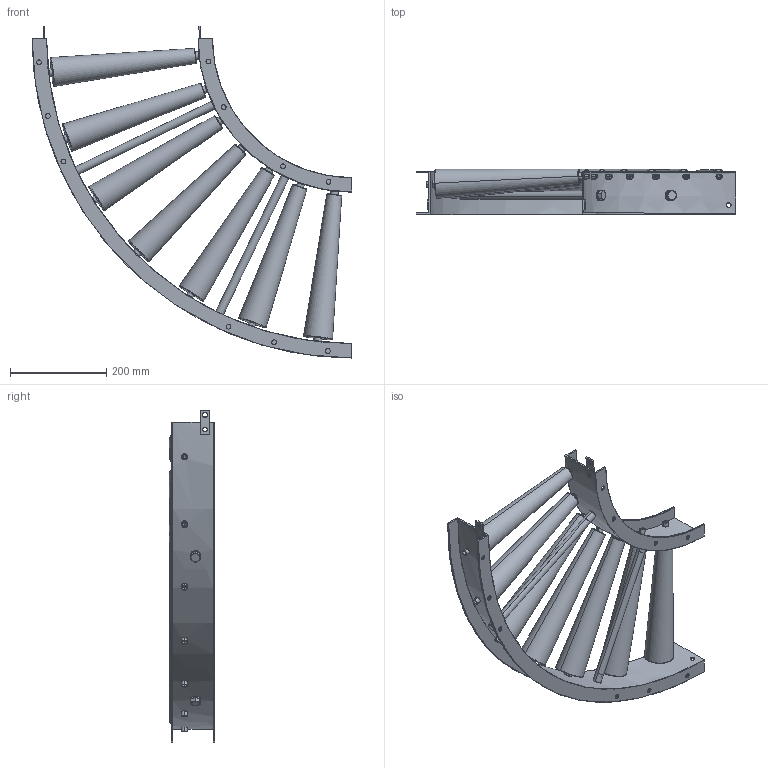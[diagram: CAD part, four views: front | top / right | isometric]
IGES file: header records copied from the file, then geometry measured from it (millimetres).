
Start section: SolidWorks IGES file using analytic representation for surfaces
Global section: file name: C:\Users\0656\Desktop\変換ツール\iges変換\R-TC320_C.igs; native system: SolidWorks 2023; preprocessor: SolidWorks 2023; author: 0656; date: 240315.112225; units: millimetre
Bounding box: 665 x 94.19 x 690.25 mm (x, y, z)
Surface area: 1087205.2 mm2 (no closed solid volume)
Topology: 0 solids, 0 shells, 404 faces, 8876 edges, 8876 vertices
Faces by surface type: revolution 219, bspline 185
